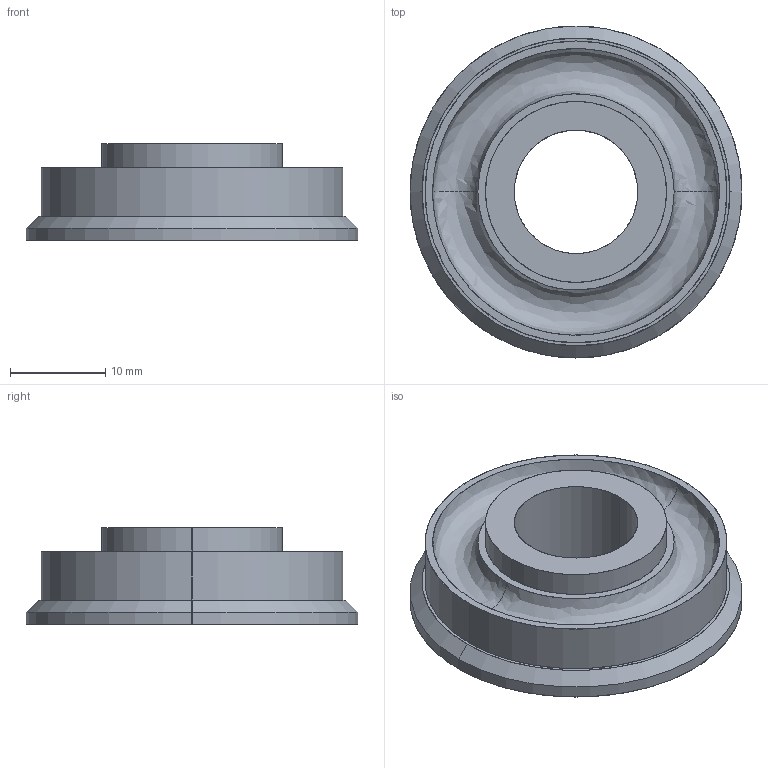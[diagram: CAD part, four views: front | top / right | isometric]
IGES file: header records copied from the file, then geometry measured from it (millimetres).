
Start section: SolidWorks IGES file using analytic representation for surfaces
Global section: file name: C:\Users\Shane\Desktop\Adaptor.IGS; native system: SolidWorks 2011; preprocessor: SolidWorks 2011; author: Shane; date: 120428.103751; units: inch
Bounding box: 34.92 x 34.92 x 10.16 mm (x, y, z)
Surface area: 3390.2 mm2 (no closed solid volume)
Topology: 0 solids, 0 shells, 20 faces, 632 edges, 632 vertices
Faces by surface type: revolution 10, bspline 10
